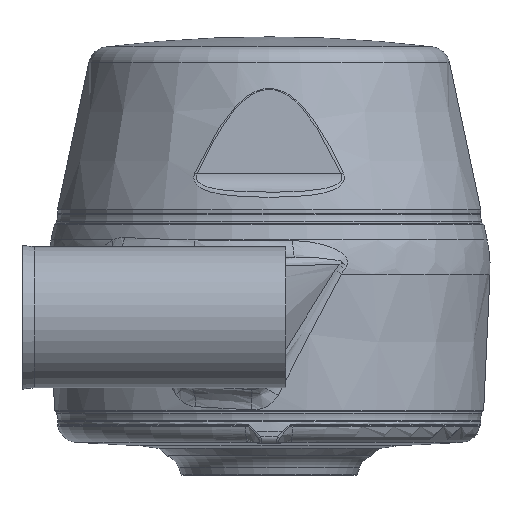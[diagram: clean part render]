
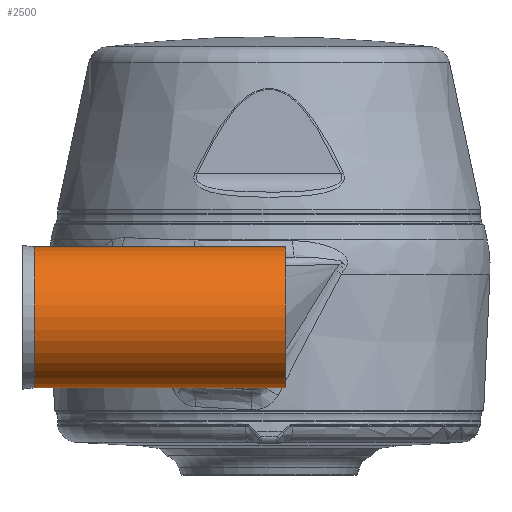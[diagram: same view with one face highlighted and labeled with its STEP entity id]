
A CAD part, front view. The second image highlights one B-rep face of the part: STEP entity #2500.
In plain terms, the highlighted cylindrical face has radius 10.5 mm (diameter 21 mm), a partial arc.
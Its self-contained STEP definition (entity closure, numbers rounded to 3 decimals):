
#225 = DIRECTION ( 'NONE',  ( 1., 0., 0. ) ) ;
#240 = LINE ( 'NONE', #1530, #678 ) ;
#634 = DIRECTION ( 'NONE',  ( 1., 0., 0. ) ) ;
#678 = VECTOR ( 'NONE', #2705, 1000. ) ;
#1179 = DIRECTION ( 'NONE',  ( -1., 0., 0. ) ) ;
#1347 = EDGE_CURVE ( 'NONE', #6857, #13246, #12429, .T. ) ;
#1517 = CYLINDRICAL_SURFACE ( 'NONE', #11166, 10.5 ) ;
#1530 = CARTESIAN_POINT ( 'NONE',  ( -36.5, -52.5, -10.5 ) ) ;
#2500 = ADVANCED_FACE ( 'NONE', ( #14437 ), #1517, .T. ) ;
#2705 = DIRECTION ( 'NONE',  ( 1., 0., 0. ) ) ;
#3149 = EDGE_CURVE ( 'NONE', #4514, #6063, #13643, .T. ) ;
#4514 = VERTEX_POINT ( 'NONE', #7940 ) ;
#5820 = CARTESIAN_POINT ( 'NONE',  ( 2.5, -52.5, 10.5 ) ) ;
#6063 = VERTEX_POINT ( 'NONE', #9231 ) ;
#6238 = EDGE_CURVE ( 'NONE', #6063, #6857, #240, .T. ) ;
#6560 = CARTESIAN_POINT ( 'NONE',  ( -36.5, -52.5, 10.5 ) ) ;
#6635 = LINE ( 'NONE', #6560, #8007 ) ;
#6857 = VERTEX_POINT ( 'NONE', #7129 ) ;
#7129 = CARTESIAN_POINT ( 'NONE',  ( 2.5, -52.5, -10.5 ) ) ;
#7940 = CARTESIAN_POINT ( 'NONE',  ( -35., -52.5, 10.5 ) ) ;
#7999 = AXIS2_PLACEMENT_3D ( 'NONE', #10855, #11075, #12149 ) ;
#8007 = VECTOR ( 'NONE', #634, 1000. ) ;
#8632 = EDGE_LOOP ( 'NONE', ( #9062, #14923, #9878, #11880 ) ) ;
#9062 = ORIENTED_EDGE ( 'NONE', *, *, #3149, .T. ) ;
#9231 = CARTESIAN_POINT ( 'NONE',  ( -35., -52.5, -10.5 ) ) ;
#9740 = AXIS2_PLACEMENT_3D ( 'NONE', #11551, #1179, #11784 ) ;
#9878 = ORIENTED_EDGE ( 'NONE', *, *, #1347, .T. ) ;
#10855 = CARTESIAN_POINT ( 'NONE',  ( -35., -52.5, 0. ) ) ;
#11031 = EDGE_CURVE ( 'NONE', #4514, #13246, #6635, .T. ) ;
#11075 = DIRECTION ( 'NONE',  ( 1., 0., 0. ) ) ;
#11166 = AXIS2_PLACEMENT_3D ( 'NONE', #11896, #225, #14283 ) ;
#11551 = CARTESIAN_POINT ( 'NONE',  ( 2.5, -52.5, 0. ) ) ;
#11784 = DIRECTION ( 'NONE',  ( 0., 0., 1. ) ) ;
#11880 = ORIENTED_EDGE ( 'NONE', *, *, #11031, .F. ) ;
#11896 = CARTESIAN_POINT ( 'NONE',  ( -36.5, -52.5, 0. ) ) ;
#12149 = DIRECTION ( 'NONE',  ( 0., 0., -1. ) ) ;
#12429 = CIRCLE ( 'NONE', #9740, 10.5 ) ;
#13246 = VERTEX_POINT ( 'NONE', #5820 ) ;
#13643 = CIRCLE ( 'NONE', #7999, 10.5 ) ;
#14283 = DIRECTION ( 'NONE',  ( 0., 0., 1. ) ) ;
#14437 = FACE_OUTER_BOUND ( 'NONE', #8632, .T. ) ;
#14923 = ORIENTED_EDGE ( 'NONE', *, *, #6238, .T. ) ;
